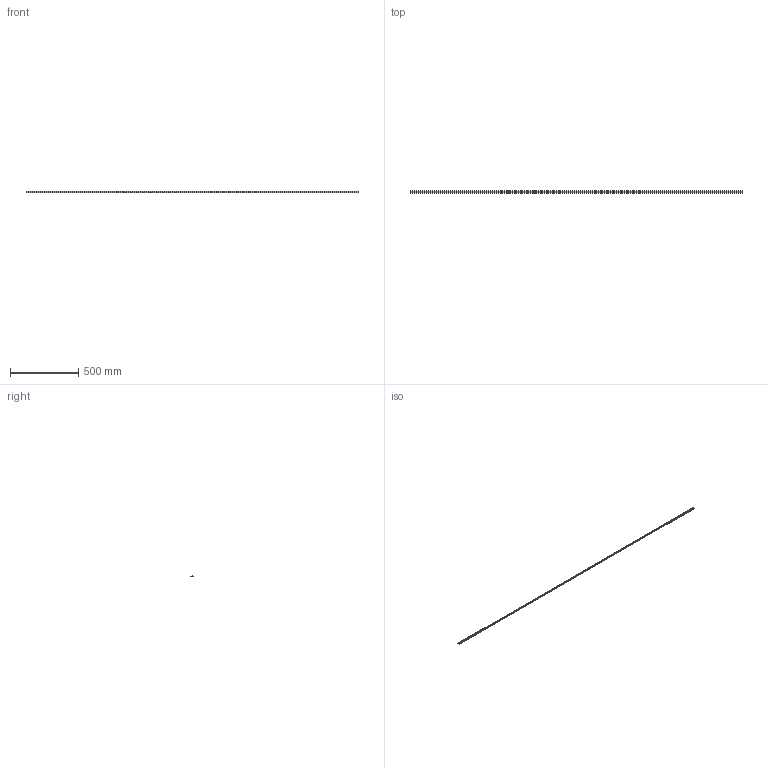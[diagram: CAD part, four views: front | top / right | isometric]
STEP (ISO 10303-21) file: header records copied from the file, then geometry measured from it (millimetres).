
FILE_DESCRIPTION (( 'STEP AP203' ), '1' );
FILE_NAME ('GTB09A08.STEP', '2016-10-25T18:59:13', ( '' ), ( '' ), 'SwSTEP 2.0', 'SolidWorks 2015', '' );
FILE_SCHEMA (( 'CONFIG_CONTROL_DESIGN' ));
Length unit declared in the file: inch
Products named in the file (1): GTB09A08
Bounding box: 2438.4 x 14.73 x 8.38 mm (x, y, z)
Volume: 131521.2 mm3; surface area: 113424.2 mm2
Topology: 1 solids, 1 shells, 28 faces, 78 edges, 52 vertices
Faces by surface type: plane 16, cylinder 12
Entity records: 985 total; most frequent: DIRECTION 160, CARTESIAN_POINT 159, ORIENTED_EDGE 156, EDGE_CURVE 78, VECTOR 54, LINE 54, AXIS2_PLACEMENT_3D 53, VERTEX_POINT 52
